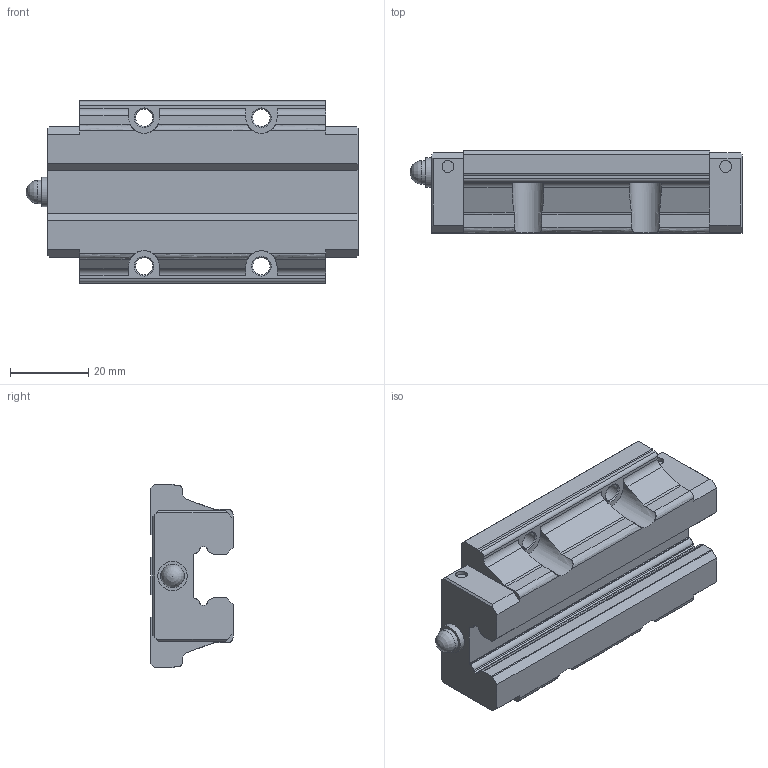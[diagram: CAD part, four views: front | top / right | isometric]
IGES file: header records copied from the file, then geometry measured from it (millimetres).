
Start section: Data from Parasolid IGES Translator 26.0.171, Copyright(c) 2006 Siemens PLM Software. All Rights Reserved.
Global section: file name: SHS15LC1SS(GK) BLOCK(PB1021B1).igs; native system: By Siemens PLM Incorporated; preprocessor: XPlus GENERIC/IGES 26.0.171; author: Noname; organization: Noname; date: 20240514.043549; units: millimetre
Bounding box: 84.9 x 21 x 47 mm (x, y, z)
Surface area: 13786.4 mm2 (no closed solid volume)
Topology: 0 solids, 0 shells, 154 faces, 849 edges, 819 vertices
Faces by surface type: extrusion 87, revolution 67
